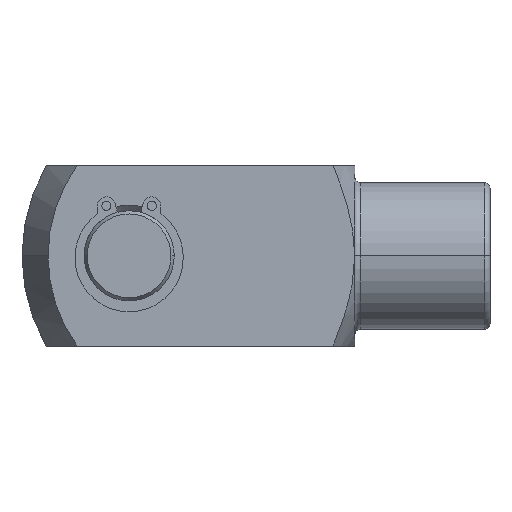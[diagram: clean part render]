
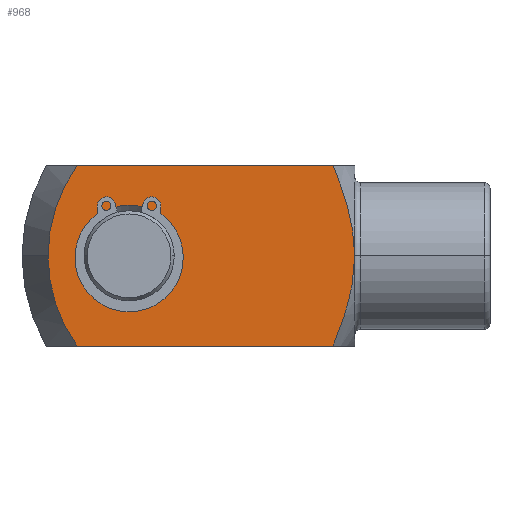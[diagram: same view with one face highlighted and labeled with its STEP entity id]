
A CAD part, top view. The second image highlights one B-rep face of the part: STEP entity #968.
In plain terms, the highlighted planar face has unit normal (0, 0, 1).
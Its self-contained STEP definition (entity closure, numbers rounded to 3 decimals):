
#942 = VERTEX_POINT ( 'NONE', #1662 ) ;
#949 = VERTEX_POINT ( 'NONE', #1705 ) ;
#953 = ORIENTED_EDGE ( 'NONE', *, *, #957, .F. ) ;
#954 = EDGE_LOOP ( 'NONE', ( #953, #981, #979, #978, #973, #966 ) ) ;
#957 = EDGE_CURVE ( 'NONE', #949, #942, #1698, .T. ) ;
#958 = ORIENTED_EDGE ( 'NONE', *, *, #2126, .T. ) ;
#960 = ORIENTED_EDGE ( 'NONE', *, *, #961, .T. ) ;
#961 = EDGE_CURVE ( 'NONE', #2137, #2120, #1694, .T. ) ;
#963 = EDGE_CURVE ( 'NONE', #965, #972, #1686, .T. ) ;
#965 = VERTEX_POINT ( 'NONE', #1689 ) ;
#966 = ORIENTED_EDGE ( 'NONE', *, *, #975, .F. ) ;
#968 = ADVANCED_FACE ( 'NONE', ( #1733, #1732 ), #1729, .T. ) ;
#970 = EDGE_LOOP ( 'NONE', ( #958, #960 ) ) ;
#972 = VERTEX_POINT ( 'NONE', #1728 ) ;
#973 = ORIENTED_EDGE ( 'NONE', *, *, #963, .F. ) ;
#975 = EDGE_CURVE ( 'NONE', #942, #965, #1714, .T. ) ;
#977 = EDGE_CURVE ( 'NONE', #2119, #972, #1779, .T. ) ;
#978 = ORIENTED_EDGE ( 'NONE', *, *, #977, .T. ) ;
#979 = ORIENTED_EDGE ( 'NONE', *, *, #2127, .T. ) ;
#980 = EDGE_CURVE ( 'NONE', #949, #2123, #1766, .T. ) ;
#981 = ORIENTED_EDGE ( 'NONE', *, *, #980, .T. ) ;
#1662 = CARTESIAN_POINT ( 'NONE',  ( -27.826, 16., 16. ) ) ;
#1686 = B_SPLINE_CURVE_WITH_KNOTS ( 'NONE', 3,
 ( #1688, #1742, #1741, #1740, #1739, #1738, #1737, #1736, #1735, #1734 ),
 .UNSPECIFIED., .F., .F.,
 ( 4, 2, 2, 2, 4 ),
 ( 0.065, 0.069, 0.073, 0.077, 0.081 ),
 .UNSPECIFIED. ) ;
#1688 = CARTESIAN_POINT ( 'NONE',  ( -24., 0., 16. ) ) ;
#1689 = CARTESIAN_POINT ( 'NONE',  ( -24., 0., 16. ) ) ;
#1690 = DIRECTION ( 'NONE',  ( 1., 0., 0. ) ) ;
#1691 = DIRECTION ( 'NONE',  ( 0., 0., -1. ) ) ;
#1692 = CARTESIAN_POINT ( 'NONE',  ( -64., 0., 16. ) ) ;
#1693 = AXIS2_PLACEMENT_3D ( 'NONE', #1692, #1691, #1690 ) ;
#1694 = CIRCLE ( 'NONE', #1693, 9. ) ;
#1695 = DIRECTION ( 'NONE',  ( 1., 0., 0. ) ) ;
#1696 = VECTOR ( 'NONE', #1695, 1000. ) ;
#1697 = CARTESIAN_POINT ( 'NONE',  ( -83., 16., 16. ) ) ;
#1698 = LINE ( 'NONE', #1697, #1696 ) ;
#1705 = CARTESIAN_POINT ( 'NONE',  ( -73.22, 16., 16. ) ) ;
#1714 = B_SPLINE_CURVE_WITH_KNOTS ( 'NONE', 3,
 ( #1719, #1718, #1717, #1716, #1715, #1776, #1775, #1774, #1773, #1772, #1771, #1770, #1769, #1768 ),
 .UNSPECIFIED., .F., .F.,
 ( 4, 2, 2, 2, 2, 2, 4 ),
 ( 0.048, 0.05, 0.052, 0.056, 0.061, 0.063, 0.065 ),
 .UNSPECIFIED. ) ;
#1715 = CARTESIAN_POINT ( 'NONE',  ( -26.58, 12.776, 16. ) ) ;
#1716 = CARTESIAN_POINT ( 'NONE',  ( -26.819, 13.427, 16. ) ) ;
#1717 = CARTESIAN_POINT ( 'NONE',  ( -27.311, 14.719, 16. ) ) ;
#1718 = CARTESIAN_POINT ( 'NONE',  ( -27.566, 15.361, 16. ) ) ;
#1719 = CARTESIAN_POINT ( 'NONE',  ( -27.826, 16., 16. ) ) ;
#1724 = DIRECTION ( 'NONE',  ( 1., 0., 0. ) ) ;
#1725 = DIRECTION ( 'NONE',  ( 0., 0., 1. ) ) ;
#1726 = CARTESIAN_POINT ( 'NONE',  ( -83., -16., 16. ) ) ;
#1727 = AXIS2_PLACEMENT_3D ( 'NONE', #1726, #1725, #1724 ) ;
#1728 = CARTESIAN_POINT ( 'NONE',  ( -27.826, -16., 16. ) ) ;
#1729 = PLANE ( 'NONE',  #1727 ) ;
#1732 = FACE_OUTER_BOUND ( 'NONE', #954, .T. ) ;
#1733 = FACE_BOUND ( 'NONE', #970, .T. ) ;
#1734 = CARTESIAN_POINT ( 'NONE',  ( -27.826, -16., 16. ) ) ;
#1735 = CARTESIAN_POINT ( 'NONE',  ( -27.303, -14.719, 16. ) ) ;
#1736 = CARTESIAN_POINT ( 'NONE',  ( -26.805, -13.423, 16. ) ) ;
#1737 = CARTESIAN_POINT ( 'NONE',  ( -25.893, -10.806, 16. ) ) ;
#1738 = CARTESIAN_POINT ( 'NONE',  ( -25.481, -9.489, 16. ) ) ;
#1739 = CARTESIAN_POINT ( 'NONE',  ( -24.783, -6.831, 16. ) ) ;
#1740 = CARTESIAN_POINT ( 'NONE',  ( -24.499, -5.489, 16. ) ) ;
#1741 = CARTESIAN_POINT ( 'NONE',  ( -24.107, -2.772, 16. ) ) ;
#1742 = CARTESIAN_POINT ( 'NONE',  ( -24., -1.396, 16. ) ) ;
#1762 = DIRECTION ( 'NONE',  ( 1., 0., 0. ) ) ;
#1763 = DIRECTION ( 'NONE',  ( 0., 0., 1. ) ) ;
#1764 = CARTESIAN_POINT ( 'NONE',  ( -51., 0., 16. ) ) ;
#1765 = AXIS2_PLACEMENT_3D ( 'NONE', #1764, #1763, #1762 ) ;
#1766 = CIRCLE ( 'NONE', #1765, 27.381 ) ;
#1767 = DIRECTION ( 'NONE',  ( 1., 0., 0. ) ) ;
#1768 = CARTESIAN_POINT ( 'NONE',  ( -24., 0., 16. ) ) ;
#1769 = CARTESIAN_POINT ( 'NONE',  ( -24., 0.696, 16. ) ) ;
#1770 = CARTESIAN_POINT ( 'NONE',  ( -24.027, 1.395, 16. ) ) ;
#1771 = CARTESIAN_POINT ( 'NONE',  ( -24.13, 2.776, 16. ) ) ;
#1772 = CARTESIAN_POINT ( 'NONE',  ( -24.206, 3.461, 16. ) ) ;
#1773 = CARTESIAN_POINT ( 'NONE',  ( -24.501, 5.503, 16. ) ) ;
#1774 = CARTESIAN_POINT ( 'NONE',  ( -24.787, 6.845, 16. ) ) ;
#1775 = CARTESIAN_POINT ( 'NONE',  ( -25.485, 9.502, 16. ) ) ;
#1776 = CARTESIAN_POINT ( 'NONE',  ( -25.897, 10.817, 16. ) ) ;
#1777 = VECTOR ( 'NONE', #1767, 1000. ) ;
#1778 = CARTESIAN_POINT ( 'NONE',  ( -83., -16., 16. ) ) ;
#1779 = LINE ( 'NONE', #1778, #1777 ) ;
#2119 = VERTEX_POINT ( 'NONE', #2711 ) ;
#2120 = VERTEX_POINT ( 'NONE', #2710 ) ;
#2123 = VERTEX_POINT ( 'NONE', #2709 ) ;
#2126 = EDGE_CURVE ( 'NONE', #2120, #2137, #2698, .T. ) ;
#2127 = EDGE_CURVE ( 'NONE', #2123, #2119, #2693, .T. ) ;
#2137 = VERTEX_POINT ( 'NONE', #2732 ) ;
#2689 = DIRECTION ( 'NONE',  ( 1., 0., 0. ) ) ;
#2690 = DIRECTION ( 'NONE',  ( 0., 0., 1. ) ) ;
#2691 = CARTESIAN_POINT ( 'NONE',  ( -51., 0., 16. ) ) ;
#2692 = AXIS2_PLACEMENT_3D ( 'NONE', #2691, #2690, #2689 ) ;
#2693 = CIRCLE ( 'NONE', #2692, 27.381 ) ;
#2694 = DIRECTION ( 'NONE',  ( 1., 0., 0. ) ) ;
#2695 = DIRECTION ( 'NONE',  ( 0., 0., -1. ) ) ;
#2696 = CARTESIAN_POINT ( 'NONE',  ( -64., 0., 16. ) ) ;
#2697 = AXIS2_PLACEMENT_3D ( 'NONE', #2696, #2695, #2694 ) ;
#2698 = CIRCLE ( 'NONE', #2697, 9. ) ;
#2709 = CARTESIAN_POINT ( 'NONE',  ( -78.381, 0., 16. ) ) ;
#2710 = CARTESIAN_POINT ( 'NONE',  ( -55., 0., 16. ) ) ;
#2711 = CARTESIAN_POINT ( 'NONE',  ( -73.22, -16., 16. ) ) ;
#2732 = CARTESIAN_POINT ( 'NONE',  ( -73., 0., 16. ) ) ;
